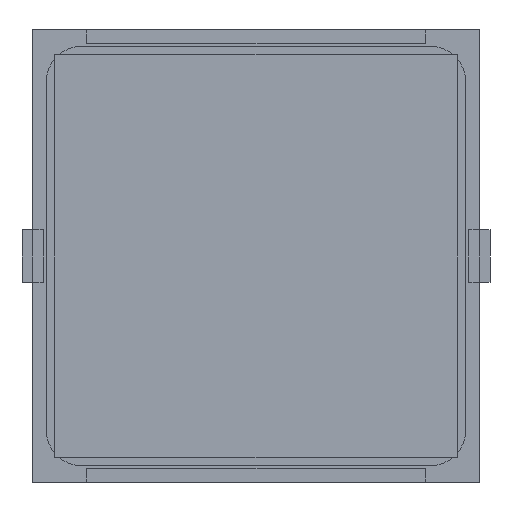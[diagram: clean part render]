
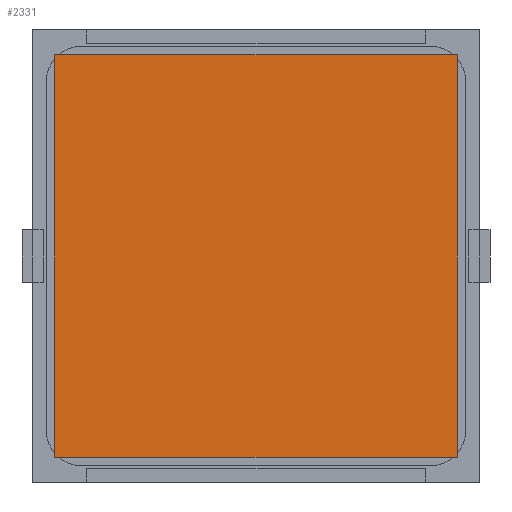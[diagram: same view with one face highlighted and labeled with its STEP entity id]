
A CAD part, front view. The second image highlights one B-rep face of the part: STEP entity #2331.
In plain terms, the highlighted planar face has unit normal (0, -1, 0).
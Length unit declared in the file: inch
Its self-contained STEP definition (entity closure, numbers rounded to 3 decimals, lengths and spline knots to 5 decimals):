
#75 = ORIENTED_EDGE ( 'NONE', *, *, #6144, .F. ) ;
#324 = DIRECTION ( 'NONE',  ( -1., 0., 0. ) ) ;
#929 = CARTESIAN_POINT ( 'NONE',  ( 0.74803, -0.005, 0.74803 ) ) ;
#2014 = EDGE_LOOP ( 'NONE', ( #6283, #2892, #75, #10528 ) ) ;
#2331 = ADVANCED_FACE ( 'NONE', ( #3046 ), #6754, .F. ) ;
#2793 = CARTESIAN_POINT ( 'NONE',  ( 0.74803, -0.005, -0.74803 ) ) ;
#2892 = ORIENTED_EDGE ( 'NONE', *, *, #3586, .F. ) ;
#3004 = VERTEX_POINT ( 'NONE', #4183 ) ;
#3046 = FACE_OUTER_BOUND ( 'NONE', #2014, .T. ) ;
#3586 = EDGE_CURVE ( 'NONE', #8337, #10473, #5886, .T. ) ;
#4183 = CARTESIAN_POINT ( 'NONE',  ( -0.74803, -0.005, 0.74803 ) ) ;
#4264 = EDGE_CURVE ( 'NONE', #10473, #3004, #8641, .T. ) ;
#4274 = VECTOR ( 'NONE', #10397, 39.37008 ) ;
#4637 = CARTESIAN_POINT ( 'NONE',  ( -0.74803, -0.005, 0.74803 ) ) ;
#5886 = LINE ( 'NONE', #8674, #11052 ) ;
#5961 = DIRECTION ( 'NONE',  ( 0., 0., 1. ) ) ;
#6021 = CARTESIAN_POINT ( 'NONE',  ( -0.74803, -0.005, -0.74803 ) ) ;
#6144 = EDGE_CURVE ( 'NONE', #9013, #8337, #11104, .T. ) ;
#6283 = ORIENTED_EDGE ( 'NONE', *, *, #4264, .F. ) ;
#6537 = VECTOR ( 'NONE', #10959, 39.37008 ) ;
#6754 = PLANE ( 'NONE',  #11946 ) ;
#6981 = CARTESIAN_POINT ( 'NONE',  ( 0.74803, -0.005, -0.74803 ) ) ;
#7555 = VECTOR ( 'NONE', #8389, 39.37008 ) ;
#7956 = CARTESIAN_POINT ( 'NONE',  ( -0.74803, -0.005, 0.74803 ) ) ;
#8337 = VERTEX_POINT ( 'NONE', #6981 ) ;
#8389 = DIRECTION ( 'NONE',  ( 0., 0., -1. ) ) ;
#8588 = EDGE_CURVE ( 'NONE', #3004, #9013, #11082, .T. ) ;
#8641 = LINE ( 'NONE', #10523, #4274 ) ;
#8674 = CARTESIAN_POINT ( 'NONE',  ( -0.74803, -0.005, -0.74803 ) ) ;
#9013 = VERTEX_POINT ( 'NONE', #929 ) ;
#9786 = DIRECTION ( 'NONE',  ( 0., 1., 0. ) ) ;
#10397 = DIRECTION ( 'NONE',  ( 0., 0., 1. ) ) ;
#10473 = VERTEX_POINT ( 'NONE', #6021 ) ;
#10523 = CARTESIAN_POINT ( 'NONE',  ( -0.74803, -0.005, -0.74803 ) ) ;
#10528 = ORIENTED_EDGE ( 'NONE', *, *, #8588, .F. ) ;
#10959 = DIRECTION ( 'NONE',  ( 1., 0., 0. ) ) ;
#11052 = VECTOR ( 'NONE', #324, 39.37008 ) ;
#11082 = LINE ( 'NONE', #4637, #6537 ) ;
#11104 = LINE ( 'NONE', #2793, #7555 ) ;
#11946 = AXIS2_PLACEMENT_3D ( 'NONE', #7956, #9786, #5961 ) ;
